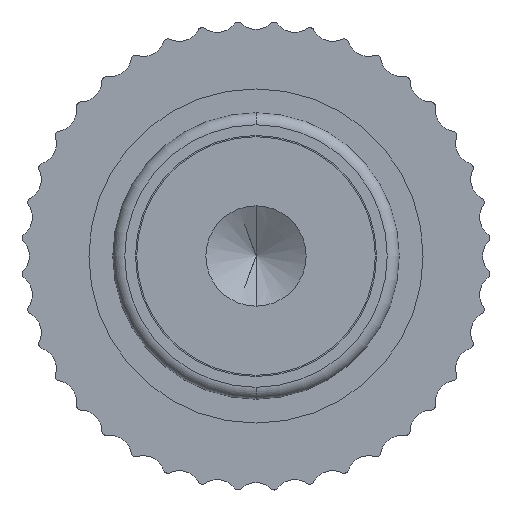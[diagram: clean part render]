
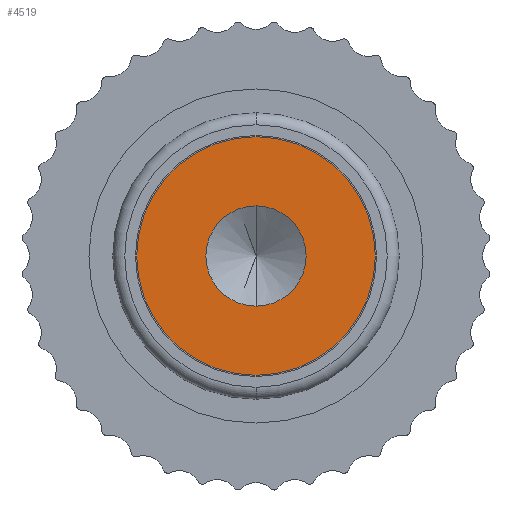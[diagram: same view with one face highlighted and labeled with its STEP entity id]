
A CAD part, front view. The second image highlights one B-rep face of the part: STEP entity #4519.
In plain terms, the highlighted planar face has unit normal (0, -1, 0).
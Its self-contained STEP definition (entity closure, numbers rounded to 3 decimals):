
#138 = VERTEX_POINT ( 'NONE', #2648 ) ;
#668 = AXIS2_PLACEMENT_3D ( 'NONE', #5769, #1622, #6443 ) ;
#776 = FACE_OUTER_BOUND ( 'NONE', #4043, .T. ) ;
#789 = ORIENTED_EDGE ( 'NONE', *, *, #8025, .F. ) ;
#809 = DIRECTION ( 'NONE',  ( 0., -1., 0. ) ) ;
#1061 = CARTESIAN_POINT ( 'NONE',  ( 0., 0., 0. ) ) ;
#1100 = CARTESIAN_POINT ( 'NONE',  ( 0., 0., -2.1 ) ) ;
#1153 = CARTESIAN_POINT ( 'NONE',  ( 0., 0., 0. ) ) ;
#1622 = DIRECTION ( 'NONE',  ( 0., -1., 0. ) ) ;
#1723 = CARTESIAN_POINT ( 'NONE',  ( 0., 0., 0. ) ) ;
#1761 = DIRECTION ( 'NONE',  ( 0., 0., -1. ) ) ;
#1854 = DIRECTION ( 'NONE',  ( 0., 0., -1. ) ) ;
#1973 = AXIS2_PLACEMENT_3D ( 'NONE', #7660, #809, #5632 ) ;
#2410 = DIRECTION ( 'NONE',  ( 0., 0., -1. ) ) ;
#2648 = CARTESIAN_POINT ( 'NONE',  ( 0., 0., -5. ) ) ;
#2810 = FACE_BOUND ( 'NONE', #4815, .T. ) ;
#3785 = CIRCLE ( 'NONE', #668, 5. ) ;
#3849 = ORIENTED_EDGE ( 'NONE', *, *, #4126, .F. ) ;
#3963 = VERTEX_POINT ( 'NONE', #4969 ) ;
#3973 = ORIENTED_EDGE ( 'NONE', *, *, #4728, .T. ) ;
#4043 = EDGE_LOOP ( 'NONE', ( #3973, #8816 ) ) ;
#4126 = EDGE_CURVE ( 'NONE', #3963, #7182, #7319, .T. ) ;
#4519 = ADVANCED_FACE ( 'NONE', ( #2810, #776 ), #5594, .T. ) ;
#4728 = EDGE_CURVE ( 'NONE', #7105, #138, #8637, .T. ) ;
#4815 = EDGE_LOOP ( 'NONE', ( #789, #3849 ) ) ;
#4969 = CARTESIAN_POINT ( 'NONE',  ( 0., 0., 2.1 ) ) ;
#5138 = AXIS2_PLACEMENT_3D ( 'NONE', #1061, #5891, #1761 ) ;
#5594 = PLANE ( 'NONE',  #1973 ) ;
#5632 = DIRECTION ( 'NONE',  ( 0., 0., -1. ) ) ;
#5769 = CARTESIAN_POINT ( 'NONE',  ( 0., 0., 0. ) ) ;
#5891 = DIRECTION ( 'NONE',  ( 0., -1., 0. ) ) ;
#5918 = EDGE_CURVE ( 'NONE', #138, #7105, #3785, .T. ) ;
#5977 = DIRECTION ( 'NONE',  ( 0., -1., 0. ) ) ;
#6443 = DIRECTION ( 'NONE',  ( 0., 0., -1. ) ) ;
#6553 = DIRECTION ( 'NONE',  ( 0., -1., 0. ) ) ;
#7105 = VERTEX_POINT ( 'NONE', #7368 ) ;
#7182 = VERTEX_POINT ( 'NONE', #1100 ) ;
#7319 = CIRCLE ( 'NONE', #5138, 2.1 ) ;
#7368 = CARTESIAN_POINT ( 'NONE',  ( 0., 0., 5. ) ) ;
#7660 = CARTESIAN_POINT ( 'NONE',  ( 6., 0., 0. ) ) ;
#7784 = CIRCLE ( 'NONE', #8352, 2.1 ) ;
#8025 = EDGE_CURVE ( 'NONE', #7182, #3963, #7784, .T. ) ;
#8352 = AXIS2_PLACEMENT_3D ( 'NONE', #1153, #5977, #1854 ) ;
#8637 = CIRCLE ( 'NONE', #8914, 5. ) ;
#8816 = ORIENTED_EDGE ( 'NONE', *, *, #5918, .T. ) ;
#8914 = AXIS2_PLACEMENT_3D ( 'NONE', #1723, #6553, #2410 ) ;
